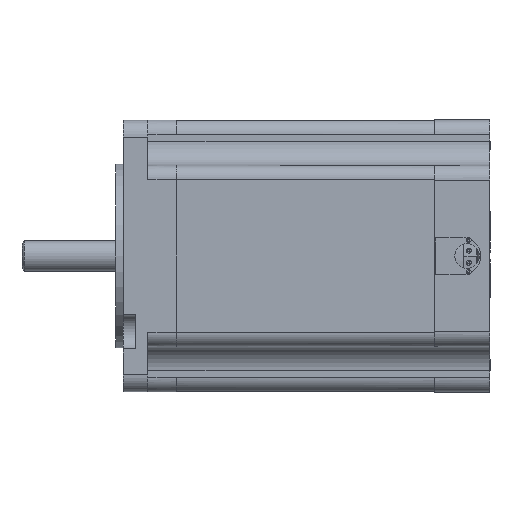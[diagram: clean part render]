
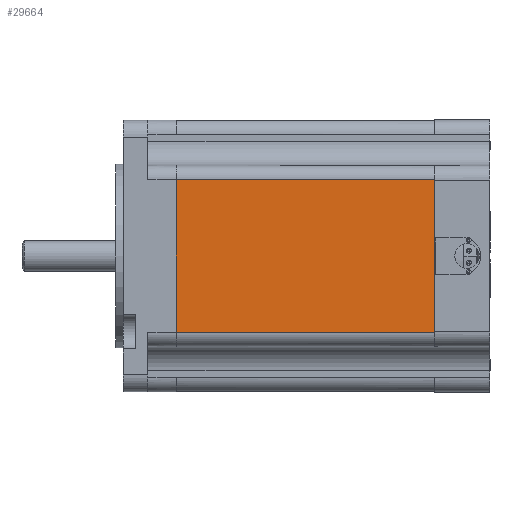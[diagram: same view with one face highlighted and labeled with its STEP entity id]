
A CAD part, front view. The second image highlights one B-rep face of the part: STEP entity #29664.
In plain terms, the highlighted planar face has unit normal (0, -1, 0).
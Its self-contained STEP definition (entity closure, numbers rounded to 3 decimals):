
#10768=CARTESIAN_POINT('',(64.494,-28.1,15.8));
#10769=VERTEX_POINT('',#10768);
#10777=CARTESIAN_POINT('',(64.494,-28.1,3.81));
#10778=VERTEX_POINT('',#10777);
#10779=CARTESIAN_POINT('',(64.494,-28.1,15.8));
#10780=DIRECTION('',(0.,0.,-1.));
#10781=VECTOR('',#10780,11.99);
#10782=LINE('',#10779,#10781);
#10783=EDGE_CURVE('',#10769,#10778,#10782,.T.);
#10809=CARTESIAN_POINT('',(64.494,-28.1,-3.81));
#10810=VERTEX_POINT('',#10809);
#10817=CARTESIAN_POINT('',(64.494,-28.1,-15.8));
#10818=VERTEX_POINT('',#10817);
#10819=CARTESIAN_POINT('',(64.494,-28.1,-3.81));
#10820=DIRECTION('',(0.,0.,-1.));
#10821=VECTOR('',#10820,11.99);
#10822=LINE('',#10819,#10821);
#10823=EDGE_CURVE('',#10810,#10818,#10822,.T.);
#10849=CARTESIAN_POINT('',(64.494,-28.1,3.81));
#10850=DIRECTION('',(0.,0.,-1.));
#10851=VECTOR('',#10850,7.62);
#10852=LINE('',#10849,#10851);
#10853=EDGE_CURVE('',#10778,#10810,#10852,.T.);
#29621=CARTESIAN_POINT('',(11.,-28.1,15.8));
#29622=VERTEX_POINT('',#29621);
#29630=CARTESIAN_POINT('',(11.,-28.1,15.8));
#29631=DIRECTION('',(1.,0.,0.));
#29632=VECTOR('',#29631,53.494);
#29633=LINE('',#29630,#29632);
#29634=EDGE_CURVE('',#29622,#10769,#29633,.T.);
#29639=CARTESIAN_POINT('',(81.,-28.1,0.));
#29640=DIRECTION('',(0.,0.,-1.));
#29641=DIRECTION('',(0.,-1.,0.));
#29642=AXIS2_PLACEMENT_3D('',#29639,#29641,#29640);
#29643=PLANE('',#29642);
#29644=ORIENTED_EDGE('',*,*,#10823,.F.);
#29645=ORIENTED_EDGE('',*,*,#10853,.F.);
#29646=ORIENTED_EDGE('',*,*,#10783,.F.);
#29647=ORIENTED_EDGE('',*,*,#29634,.F.);
#29648=CARTESIAN_POINT('',(11.,-28.1,-15.8));
#29649=VERTEX_POINT('',#29648);
#29650=CARTESIAN_POINT('',(11.,-28.1,15.8));
#29651=DIRECTION('',(0.,0.,-1.));
#29652=VECTOR('',#29651,31.6);
#29653=LINE('',#29650,#29652);
#29654=EDGE_CURVE('',#29622,#29649,#29653,.T.);
#29655=ORIENTED_EDGE('E2808',*,*,#29654,.T.);
#29656=CARTESIAN_POINT('',(11.,-28.1,-15.8));
#29657=DIRECTION('',(1.,0.,0.));
#29658=VECTOR('',#29657,53.494);
#29659=LINE('',#29656,#29658);
#29660=EDGE_CURVE('',#29649,#10818,#29659,.T.);
#29661=ORIENTED_EDGE('E2809',*,*,#29660,.T.);
#29662=EDGE_LOOP('',(#29644,#29645,#29646,#29647,#29655,#29661));
#29663=FACE_OUTER_BOUND('',#29662,.T.);
#29664=ADVANCED_FACE('F705',(#29663),#29643,.T.);
